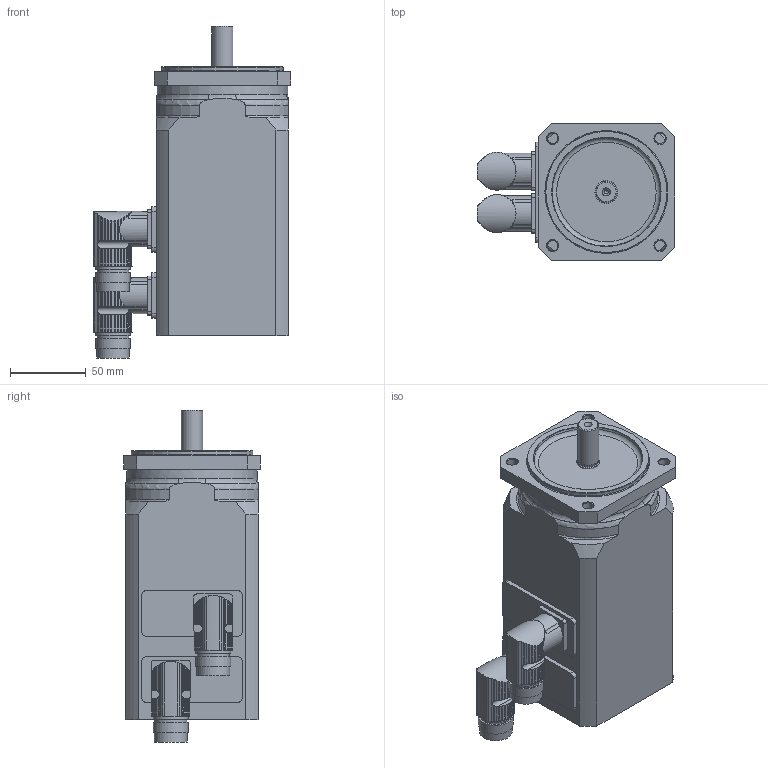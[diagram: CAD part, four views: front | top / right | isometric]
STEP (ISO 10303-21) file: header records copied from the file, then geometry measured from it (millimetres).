
FILE_DESCRIPTION(/* description */ (''),/* implementation_level */ '2;1');
FILE_NAME(/* name */ 'KSY 364 D-MD-R4',/* time_stamp */ '2007-01-03T10:04:06+01:00',/* author */ (''),/* organization */ (''),/* preprocessor_version */ 'ST-DEVELOPER v8',/* originating_system */ 'UNIGRAPHICS SOLUTIONS - UNIGRAPHICS 18.0',/* authorisation */ '');
FILE_SCHEMA (('AUTOMOTIVE_DESIGN { 1 2 10303 214 0 1 1 1 }'));
Length unit declared in the file: millimetre
Products named in the file (3): Winkelflanschdose_0; Rotor_SY3_0; KSY364D-MD-R4_0
Assembly tree (3 placements, depth 2):
  KSY364D-MD-R4_0
    Rotor_SY3_0
    Winkelflanschdose_0  x2
Bounding box: 129.99 x 90 x 218.65 mm (x, y, z)
Volume: 1350458.4 mm3; surface area: 94042.5 mm2
Topology: 4 solids, 4 shells, 427 faces, 1188 edges, 787 vertices
Faces by surface type: cylinder 315, plane 74, cone 17, torus 17, bspline 4
Full cylindrical faces by diameter (mm): 2.5 x1, 7 x4, 13.52 x1, 14 x1, 15 x1, 16 x2, 21 x2, 21.5 x2, 23 x4, 72 x1, 80 x1, 86 x1
Entity records: 8857 total; most frequent: CARTESIAN_POINT 2369, ORIENTED_EDGE 1358, DIRECTION 1280, EDGE_CURVE 679, AXIS2_PLACEMENT_3D 518, VERTEX_POINT 465, EDGE_LOOP 313, ADVANCED_FACE 263
